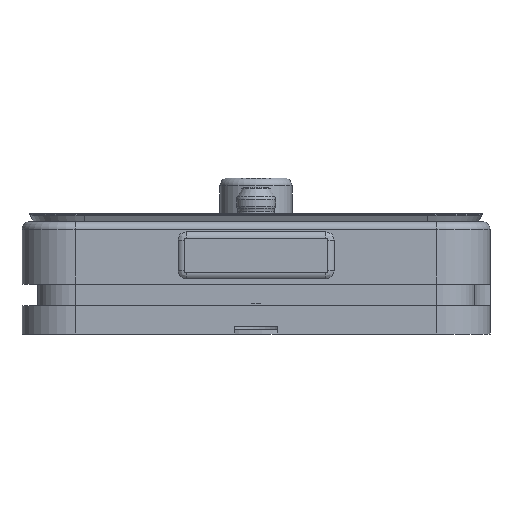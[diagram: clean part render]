
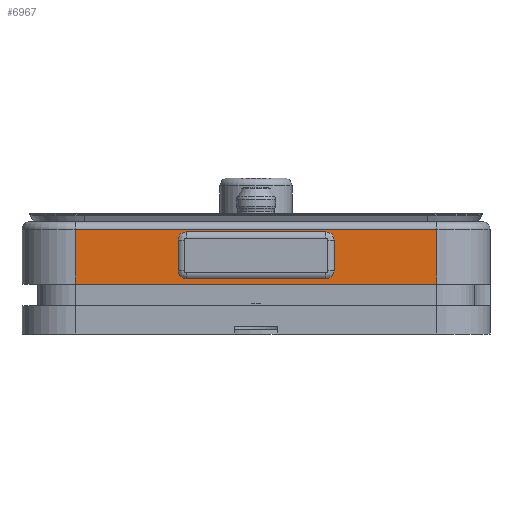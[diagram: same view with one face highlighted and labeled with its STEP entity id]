
A CAD part, front view. The second image highlights one B-rep face of the part: STEP entity #6967.
In plain terms, the highlighted planar face has unit normal (0, -1, 0).
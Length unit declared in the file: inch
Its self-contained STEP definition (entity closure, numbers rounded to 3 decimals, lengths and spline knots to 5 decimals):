
#31=FACE_BOUND('',#1126,.T.);
#343=PLANE('',#7685);
#703=FACE_OUTER_BOUND('',#1125,.T.);
#1125=EDGE_LOOP('',(#5779,#5780,#5781,#5782));
#1126=EDGE_LOOP('',(#5783,#5784,#5785,#5786,#5787,#5788,#5789,#5790));
#1563=CIRCLE('',#7651,0.13);
#1564=CIRCLE('',#7654,0.13);
#1565=CIRCLE('',#7657,0.13);
#1566=CIRCLE('',#7660,0.13);
#2024=LINE('',#16830,#2541);
#2028=LINE('',#16840,#2545);
#2031=LINE('',#16848,#2548);
#2034=LINE('',#16856,#2551);
#2036=LINE('',#16862,#2553);
#2055=LINE('',#16923,#2572);
#2056=LINE('',#16927,#2573);
#2057=LINE('',#16928,#2574);
#2541=VECTOR('',#9284,5.8);
#2545=VECTOR('',#9294,0.3937);
#2548=VECTOR('',#9303,0.3937);
#2551=VECTOR('',#9312,0.3937);
#2553=VECTOR('',#9320,0.3937);
#2572=VECTOR('',#9383,0.875);
#2573=VECTOR('',#9388,0.875);
#2574=VECTOR('',#9389,5.8);
#3192=VERTEX_POINT('',#16820);
#3194=VERTEX_POINT('',#16826);
#3196=VERTEX_POINT('',#16832);
#3197=VERTEX_POINT('',#16834);
#3198=VERTEX_POINT('',#16838);
#3199=VERTEX_POINT('',#16842);
#3200=VERTEX_POINT('',#16846);
#3201=VERTEX_POINT('',#16850);
#3202=VERTEX_POINT('',#16854);
#3203=VERTEX_POINT('',#16858);
#3223=VERTEX_POINT('',#16922);
#3224=VERTEX_POINT('',#16926);
#4077=EDGE_CURVE('',#3194,#3192,#2024,.F.);
#4079=EDGE_CURVE('',#3196,#3197,#1563,.T.);
#4082=EDGE_CURVE('',#3198,#3197,#2028,.T.);
#4083=EDGE_CURVE('',#3198,#3199,#1564,.T.);
#4086=EDGE_CURVE('',#3200,#3199,#2031,.T.);
#4087=EDGE_CURVE('',#3200,#3201,#1565,.T.);
#4090=EDGE_CURVE('',#3202,#3201,#2034,.T.);
#4091=EDGE_CURVE('',#3202,#3203,#1566,.T.);
#4093=EDGE_CURVE('',#3196,#3203,#2036,.T.);
#4122=EDGE_CURVE('',#3192,#3223,#2055,.T.);
#4124=EDGE_CURVE('',#3224,#3194,#2056,.F.);
#4125=EDGE_CURVE('',#3224,#3223,#2057,.T.);
#5779=ORIENTED_EDGE('',*,*,#4124,.T.);
#5780=ORIENTED_EDGE('',*,*,#4077,.T.);
#5781=ORIENTED_EDGE('',*,*,#4122,.T.);
#5782=ORIENTED_EDGE('',*,*,#4125,.F.);
#5783=ORIENTED_EDGE('',*,*,#4093,.T.);
#5784=ORIENTED_EDGE('',*,*,#4091,.F.);
#5785=ORIENTED_EDGE('',*,*,#4090,.T.);
#5786=ORIENTED_EDGE('',*,*,#4087,.F.);
#5787=ORIENTED_EDGE('',*,*,#4086,.T.);
#5788=ORIENTED_EDGE('',*,*,#4083,.F.);
#5789=ORIENTED_EDGE('',*,*,#4082,.T.);
#5790=ORIENTED_EDGE('',*,*,#4079,.F.);
#6967=ADVANCED_FACE('',(#703,#31),#343,.F.);
#7651=AXIS2_PLACEMENT_3D('',#16835,#9288,#9289);
#7654=AXIS2_PLACEMENT_3D('',#16843,#9297,#9298);
#7657=AXIS2_PLACEMENT_3D('',#16851,#9306,#9307);
#7660=AXIS2_PLACEMENT_3D('',#16859,#9315,#9316);
#7685=AXIS2_PLACEMENT_3D('',#16925,#9386,#9387);
#9284=DIRECTION('',(1.,0.,0.));
#9288=DIRECTION('center_axis',(0.,-1.,0.));
#9289=DIRECTION('ref_axis',(-0.707,0.,0.707));
#9294=DIRECTION('',(0.,0.,1.));
#9297=DIRECTION('center_axis',(0.,-1.,0.));
#9298=DIRECTION('ref_axis',(-0.707,0.,-0.707));
#9303=DIRECTION('',(-1.,0.,0.));
#9306=DIRECTION('center_axis',(0.,-1.,0.));
#9307=DIRECTION('ref_axis',(0.707,0.,-0.707));
#9312=DIRECTION('',(0.,0.,-1.));
#9315=DIRECTION('center_axis',(0.,-1.,0.));
#9316=DIRECTION('ref_axis',(0.707,0.,0.707));
#9320=DIRECTION('',(1.,0.,0.));
#9383=DIRECTION('',(0.,0.,-1.));
#9386=DIRECTION('center_axis',(0.,1.,0.));
#9387=DIRECTION('ref_axis',(-1.,0.,0.));
#9388=DIRECTION('',(0.,0.,-1.));
#9389=DIRECTION('',(-1.,0.,0.));
#16820=CARTESIAN_POINT('',(0.85,-4.025,-6.05));
#16826=CARTESIAN_POINT('',(6.65,-4.025,-6.05));
#16830=CARTESIAN_POINT('',(0.85,-4.025,-6.05));
#16832=CARTESIAN_POINT('',(2.63,-4.025,-6.09));
#16834=CARTESIAN_POINT('',(2.5,-4.025,-6.22));
#16835=CARTESIAN_POINT('Origin',(2.63,-4.025,-6.22));
#16838=CARTESIAN_POINT('',(2.5,-4.025,-6.71));
#16840=CARTESIAN_POINT('',(2.5,-4.025,-6.3825));
#16842=CARTESIAN_POINT('',(2.63,-4.025,-6.84));
#16843=CARTESIAN_POINT('Origin',(2.63,-4.025,-6.71));
#16846=CARTESIAN_POINT('',(4.87,-4.025,-6.84));
#16848=CARTESIAN_POINT('',(2.5,-4.025,-6.84));
#16850=CARTESIAN_POINT('',(5.,-4.025,-6.71));
#16851=CARTESIAN_POINT('Origin',(4.87,-4.025,-6.71));
#16854=CARTESIAN_POINT('',(5.,-4.025,-6.22));
#16856=CARTESIAN_POINT('',(5.,-4.025,-6.0075));
#16858=CARTESIAN_POINT('',(4.87,-4.025,-6.09));
#16859=CARTESIAN_POINT('Origin',(4.87,-4.025,-6.22));
#16862=CARTESIAN_POINT('',(1.25,-4.025,-6.09));
#16922=CARTESIAN_POINT('',(0.85,-4.025,-6.925));
#16923=CARTESIAN_POINT('',(0.85,-4.025,-6.05));
#16925=CARTESIAN_POINT('Origin',(0.,-4.025,-5.925));
#16926=CARTESIAN_POINT('',(6.65,-4.025,-6.925));
#16927=CARTESIAN_POINT('',(6.65,-4.025,-6.05));
#16928=CARTESIAN_POINT('',(6.65,-4.025,-6.925));
